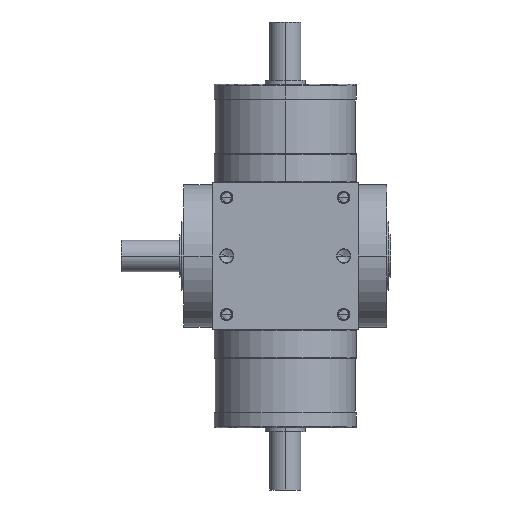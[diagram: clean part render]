
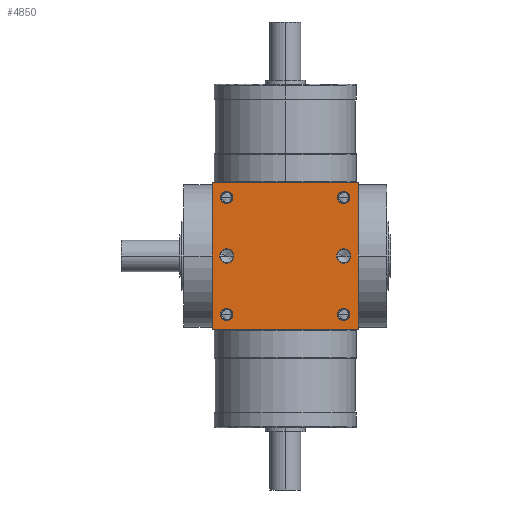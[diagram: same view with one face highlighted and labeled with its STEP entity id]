
A CAD part, front view. The second image highlights one B-rep face of the part: STEP entity #4850.
In plain terms, the highlighted planar face has unit normal (0, -1, 0).
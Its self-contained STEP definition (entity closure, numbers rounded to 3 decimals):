
#5=DIRECTION('',(1.,0.,0.));
#6=VECTOR('',#5,75.);
#7=CARTESIAN_POINT('',(-37.5,-37.5,-37.5));
#8=LINE('',#7,#6);
#165=DIRECTION('',(0.,0.,1.));
#166=VECTOR('',#165,75.);
#167=CARTESIAN_POINT('',(37.5,-37.5,-37.5));
#168=LINE('',#167,#166);
#219=DIRECTION('',(0.,0.,1.));
#220=VECTOR('',#219,75.);
#221=CARTESIAN_POINT('',(-37.5,-37.5,-37.5));
#222=LINE('',#221,#220);
#223=CARTESIAN_POINT('',(30.,-37.5,30.));
#224=DIRECTION('',(0.,1.,0.));
#225=DIRECTION('',(-1.,0.,0.));
#226=AXIS2_PLACEMENT_3D('',#223,#224,#225);
#228=CARTESIAN_POINT('',(30.,-37.5,30.));
#229=DIRECTION('',(0.,1.,0.));
#230=DIRECTION('',(1.,0.,0.));
#231=AXIS2_PLACEMENT_3D('',#228,#229,#230);
#233=CARTESIAN_POINT('',(-30.,-37.5,30.));
#234=DIRECTION('',(0.,1.,0.));
#235=DIRECTION('',(-1.,0.,0.));
#236=AXIS2_PLACEMENT_3D('',#233,#234,#235);
#238=CARTESIAN_POINT('',(-30.,-37.5,30.));
#239=DIRECTION('',(0.,1.,0.));
#240=DIRECTION('',(1.,0.,0.));
#241=AXIS2_PLACEMENT_3D('',#238,#239,#240);
#243=CARTESIAN_POINT('',(30.,-37.5,-30.));
#244=DIRECTION('',(0.,1.,0.));
#245=DIRECTION('',(-1.,0.,0.));
#246=AXIS2_PLACEMENT_3D('',#243,#244,#245);
#248=CARTESIAN_POINT('',(30.,-37.5,-30.));
#249=DIRECTION('',(0.,1.,0.));
#250=DIRECTION('',(1.,0.,0.));
#251=AXIS2_PLACEMENT_3D('',#248,#249,#250);
#253=CARTESIAN_POINT('',(-30.,-37.5,-30.));
#254=DIRECTION('',(0.,1.,0.));
#255=DIRECTION('',(-1.,0.,0.));
#256=AXIS2_PLACEMENT_3D('',#253,#254,#255);
#258=CARTESIAN_POINT('',(-30.,-37.5,-30.));
#259=DIRECTION('',(0.,1.,0.));
#260=DIRECTION('',(1.,0.,0.));
#261=AXIS2_PLACEMENT_3D('',#258,#259,#260);
#263=CARTESIAN_POINT('',(-30.,-37.5,0.));
#264=DIRECTION('',(0.,1.,0.));
#265=DIRECTION('',(1.,0.,0.));
#266=AXIS2_PLACEMENT_3D('',#263,#264,#265);
#268=CARTESIAN_POINT('',(-30.,-37.5,0.));
#269=DIRECTION('',(0.,1.,0.));
#270=DIRECTION('',(-1.,0.,0.));
#271=AXIS2_PLACEMENT_3D('',#268,#269,#270);
#273=CARTESIAN_POINT('',(30.,-37.5,0.));
#274=DIRECTION('',(0.,1.,0.));
#275=DIRECTION('',(1.,0.,0.));
#276=AXIS2_PLACEMENT_3D('',#273,#274,#275);
#278=CARTESIAN_POINT('',(30.,-37.5,0.));
#279=DIRECTION('',(0.,1.,0.));
#280=DIRECTION('',(-1.,0.,0.));
#281=AXIS2_PLACEMENT_3D('',#278,#279,#280);
#295=DIRECTION('',(1.,0.,0.));
#296=VECTOR('',#295,75.);
#297=CARTESIAN_POINT('',(-37.5,-37.5,37.5));
#298=LINE('',#297,#296);
#3872=CARTESIAN_POINT('',(-37.5,-37.5,-37.5));
#3874=VERTEX_POINT('',#3872);
#3875=CARTESIAN_POINT('',(37.5,-37.5,-37.5));
#3876=VERTEX_POINT('',#3875);
#3880=CARTESIAN_POINT('',(-37.5,-37.5,37.5));
#3882=VERTEX_POINT('',#3880);
#3883=CARTESIAN_POINT('',(37.5,-37.5,37.5));
#3884=VERTEX_POINT('',#3883);
#4055=CARTESIAN_POINT('',(26.8,-37.5,30.));
#4056=CARTESIAN_POINT('',(33.2,-37.5,30.));
#4057=VERTEX_POINT('',#4055);
#4058=VERTEX_POINT('',#4056);
#4063=CARTESIAN_POINT('',(-33.2,-37.5,30.));
#4064=CARTESIAN_POINT('',(-26.8,-37.5,30.));
#4065=VERTEX_POINT('',#4063);
#4066=VERTEX_POINT('',#4064);
#4071=CARTESIAN_POINT('',(26.8,-37.5,-30.));
#4072=CARTESIAN_POINT('',(33.2,-37.5,-30.));
#4073=VERTEX_POINT('',#4071);
#4074=VERTEX_POINT('',#4072);
#4079=CARTESIAN_POINT('',(-33.2,-37.5,-30.));
#4080=CARTESIAN_POINT('',(-26.8,-37.5,-30.));
#4081=VERTEX_POINT('',#4079);
#4082=VERTEX_POINT('',#4080);
#4421=CARTESIAN_POINT('',(-26.35,-37.5,0.));
#4422=CARTESIAN_POINT('',(-33.65,-37.5,0.));
#4423=VERTEX_POINT('',#4421);
#4424=VERTEX_POINT('',#4422);
#4429=CARTESIAN_POINT('',(33.65,-37.5,0.));
#4430=CARTESIAN_POINT('',(26.35,-37.5,0.));
#4431=VERTEX_POINT('',#4429);
#4432=VERTEX_POINT('',#4430);
#4802=CARTESIAN_POINT('',(-37.5,-37.5,-37.5));
#4803=DIRECTION('',(0.,-1.,0.));
#4804=DIRECTION('',(1.,0.,0.));
#4805=AXIS2_PLACEMENT_3D('',#4802,#4803,#4804);
#4806=PLANE('',#4805);
#4807=ORIENTED_EDGE('',*,*,#4636,.F.);
#4808=ORIENTED_EDGE('',*,*,#4685,.T.);
#4810=ORIENTED_EDGE('',*,*,#4809,.T.);
#4811=ORIENTED_EDGE('',*,*,#4764,.F.);
#4812=EDGE_LOOP('',(#4807,#4808,#4810,#4811));
#4813=FACE_OUTER_BOUND('',#4812,.F.);
#4815=ORIENTED_EDGE('',*,*,#4814,.F.);
#4817=ORIENTED_EDGE('',*,*,#4816,.F.);
#4818=EDGE_LOOP('',(#4815,#4817));
#4819=FACE_BOUND('',#4818,.F.);
#4821=ORIENTED_EDGE('',*,*,#4820,.F.);
#4823=ORIENTED_EDGE('',*,*,#4822,.F.);
#4824=EDGE_LOOP('',(#4821,#4823));
#4825=FACE_BOUND('',#4824,.F.);
#4827=ORIENTED_EDGE('',*,*,#4826,.F.);
#4829=ORIENTED_EDGE('',*,*,#4828,.F.);
#4830=EDGE_LOOP('',(#4827,#4829));
#4831=FACE_BOUND('',#4830,.F.);
#4833=ORIENTED_EDGE('',*,*,#4832,.F.);
#4835=ORIENTED_EDGE('',*,*,#4834,.F.);
#4836=EDGE_LOOP('',(#4833,#4835));
#4837=FACE_BOUND('',#4836,.F.);
#4839=ORIENTED_EDGE('',*,*,#4838,.F.);
#4841=ORIENTED_EDGE('',*,*,#4840,.F.);
#4842=EDGE_LOOP('',(#4839,#4841));
#4843=FACE_BOUND('',#4842,.F.);
#4845=ORIENTED_EDGE('',*,*,#4844,.F.);
#4847=ORIENTED_EDGE('',*,*,#4846,.F.);
#4848=EDGE_LOOP('',(#4845,#4847));
#4849=FACE_BOUND('',#4848,.F.);
#4850=ADVANCED_FACE('',(#4813,#4819,#4825,#4831,#4837,#4843,#4849),#4806,.T.);
#227=CIRCLE('',#226,3.2);
#232=CIRCLE('',#231,3.2);
#237=CIRCLE('',#236,3.2);
#242=CIRCLE('',#241,3.2);
#247=CIRCLE('',#246,3.2);
#252=CIRCLE('',#251,3.2);
#257=CIRCLE('',#256,3.2);
#262=CIRCLE('',#261,3.2);
#267=CIRCLE('',#266,3.65);
#272=CIRCLE('',#271,3.65);
#277=CIRCLE('',#276,3.65);
#282=CIRCLE('',#281,3.65);
#4636=EDGE_CURVE('',#3874,#3876,#8,.T.);
#4685=EDGE_CURVE('',#3874,#3882,#222,.T.);
#4764=EDGE_CURVE('',#3876,#3884,#168,.T.);
#4809=EDGE_CURVE('',#3882,#3884,#298,.T.);
#4814=EDGE_CURVE('',#4057,#4058,#227,.T.);
#4816=EDGE_CURVE('',#4058,#4057,#232,.T.);
#4820=EDGE_CURVE('',#4065,#4066,#237,.T.);
#4822=EDGE_CURVE('',#4066,#4065,#242,.T.);
#4826=EDGE_CURVE('',#4073,#4074,#247,.T.);
#4828=EDGE_CURVE('',#4074,#4073,#252,.T.);
#4832=EDGE_CURVE('',#4081,#4082,#257,.T.);
#4834=EDGE_CURVE('',#4082,#4081,#262,.T.);
#4838=EDGE_CURVE('',#4423,#4424,#267,.T.);
#4840=EDGE_CURVE('',#4424,#4423,#272,.T.);
#4844=EDGE_CURVE('',#4431,#4432,#277,.T.);
#4846=EDGE_CURVE('',#4432,#4431,#282,.T.);
